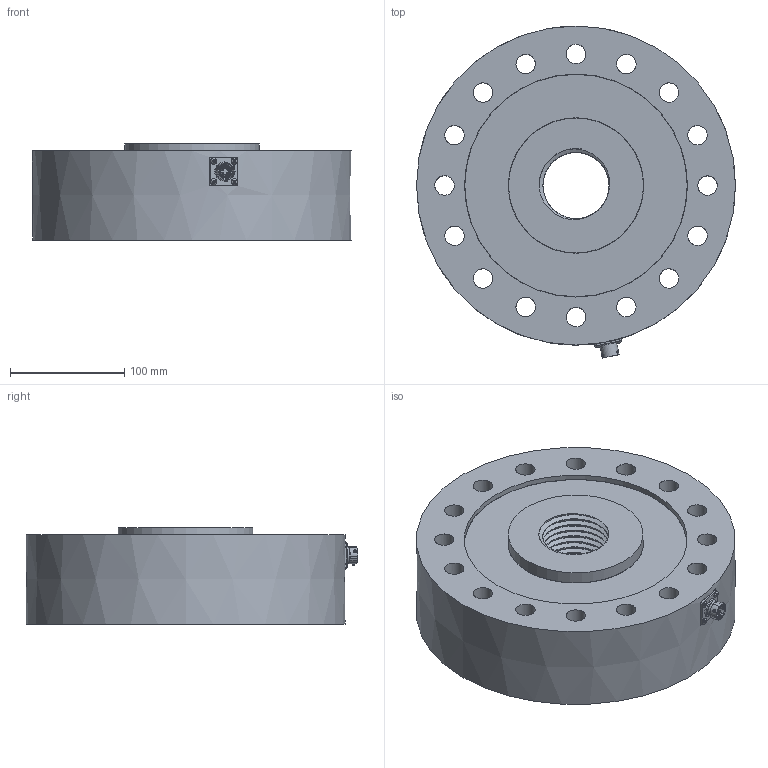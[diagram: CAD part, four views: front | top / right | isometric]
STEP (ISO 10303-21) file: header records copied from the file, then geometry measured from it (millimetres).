
FILE_DESCRIPTION(/* description */ (''),/* implementation_level */ '2;1');
FILE_NAME(/* name */ 'I:/New Datasheets/STEP Models/DSCC Size 3 (M64x6) Space Model v6.step',/* time_stamp */ '2018-09-24T16:18:25+01:00',/* author */ ('ollieVUKN3'),/* organization */ (''),/* preprocessor_version */ 'ST-DEVELOPER v17.2',/* originating_system */ 'Autodesk Translation Framework v7.6.0.251',/* authorisation */ '');
FILE_SCHEMA (('AUTOMOTIVE_DESIGN { 1 0 10303 214 3 1 1 }'));
Length unit declared in the file: millimetre
Products named in the file (2): DSCC Size 3 (M64x6) Space Model; DSCC Size 3 body - space model
Assembly tree (1 placements, depth 2):
  DSCC Size 3 (M64x6) Space Model
    DSCC Size 3 body - space model
Bounding box: 279.01 x 290.33 x 84.03 mm (x, y, z)
Volume: 3959131.4 mm3; surface area: 328821.4 mm2
Topology: 2 solids, 18 shells, 591 faces, 1618 edges, 1104 vertices
Faces by surface type: plane 257, cylinder 158, bspline 81, cone 53, torus 22, sphere 20
Full cylindrical faces by diameter (mm): 1 x3, 1.009 x6, 1.165 x6, 1.2 x6, 1.4 x6, 1.52 x3, 1.6 x3, 2 x12, 2.03 x3, 2.2 x12, 2.529 x4, 3 x4, 3.2 x4, 10.25 x2, 10.9 x1, 11.05 x1, 11.35 x1, 12.55 x1, 13.85 x1, 13.9 x1, 14 x1, 14.95 x1, 15 x1, 17 x16, 57.905 x13, 64.621 x13, 118.5 x2, 194.5 x2
Entity records: 26281 total; most frequent: CARTESIAN_POINT 11592, ORIENTED_EDGE 3222, DIRECTION 2741, EDGE_CURVE 1611, VERTEX_POINT 1104, AXIS2_PLACEMENT_3D 1014, LINE 713, VECTOR 713
